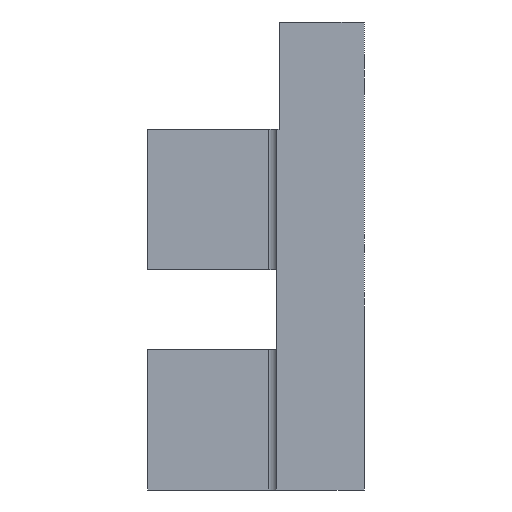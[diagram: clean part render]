
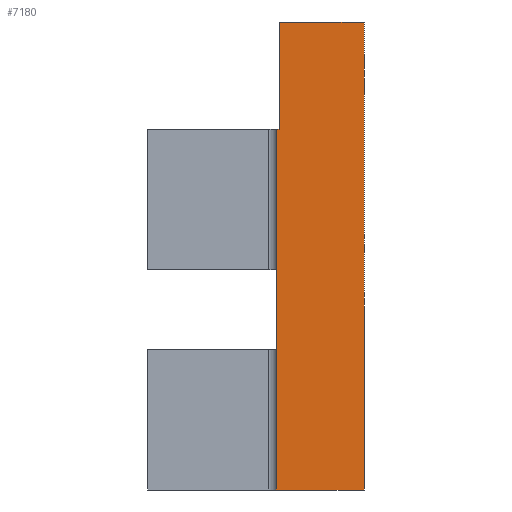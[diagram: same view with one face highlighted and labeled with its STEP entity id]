
A CAD part, left-side view. The second image highlights one B-rep face of the part: STEP entity #7180.
In plain terms, the highlighted planar face has unit normal (-1, 0, 0).
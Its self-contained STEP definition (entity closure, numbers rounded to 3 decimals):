
#619 = CARTESIAN_POINT ( 'NONE',  ( -100., 7.5, 40. ) ) ;
#1551 = EDGE_CURVE ( 'NONE', #8091, #20554, #17420, .T. ) ;
#3035 = CARTESIAN_POINT ( 'NONE',  ( -100., -7.5, 40. ) ) ;
#3167 = LINE ( 'NONE', #11513, #19996 ) ;
#3741 = VERTEX_POINT ( 'NONE', #20919 ) ;
#4354 = LINE ( 'NONE', #12696, #17843 ) ;
#5245 = ORIENTED_EDGE ( 'NONE', *, *, #9048, .T. ) ;
#5387 = ORIENTED_EDGE ( 'NONE', *, *, #11858, .F. ) ;
#5457 = ORIENTED_EDGE ( 'NONE', *, *, #14149, .F. ) ;
#5765 = CARTESIAN_POINT ( 'NONE',  ( -100., 7., 21.652 ) ) ;
#6637 = PLANE ( 'NONE',  #22877 ) ;
#7058 = FACE_OUTER_BOUND ( 'NONE', #12041, .T. ) ;
#7180 = ADVANCED_FACE ( 'NONE', ( #7058 ), #6637, .F. ) ;
#7814 = ORIENTED_EDGE ( 'NONE', *, *, #13978, .T. ) ;
#8091 = VERTEX_POINT ( 'NONE', #26180 ) ;
#8103 = VERTEX_POINT ( 'NONE', #19605 ) ;
#8254 = LINE ( 'NONE', #22642, #15645 ) ;
#8980 = DIRECTION ( 'NONE',  ( 1., 0., 0. ) ) ;
#9048 = EDGE_CURVE ( 'NONE', #8103, #20554, #8254, .T. ) ;
#10814 = DIRECTION ( 'NONE',  ( 0., 0., 1. ) ) ;
#10829 = CARTESIAN_POINT ( 'NONE',  ( -100., -7.5, -40. ) ) ;
#11513 = CARTESIAN_POINT ( 'NONE',  ( -100., 7.5, 40. ) ) ;
#11858 = EDGE_CURVE ( 'NONE', #3741, #24740, #14909, .T. ) ;
#12041 = EDGE_LOOP ( 'NONE', ( #20568, #5457, #5387, #7814, #5245, #22037 ) ) ;
#12696 = CARTESIAN_POINT ( 'NONE',  ( -100., 7.5, 40. ) ) ;
#12847 = DIRECTION ( 'NONE',  ( 0., -1., 0. ) ) ;
#12862 = LINE ( 'NONE', #21229, #22635 ) ;
#13978 = EDGE_CURVE ( 'NONE', #3741, #8103, #3167, .T. ) ;
#14149 = EDGE_CURVE ( 'NONE', #24740, #15367, #12862, .T. ) ;
#14624 = EDGE_CURVE ( 'NONE', #15367, #8091, #4354, .T. ) ;
#14909 = LINE ( 'NONE', #23267, #22224 ) ;
#15367 = VERTEX_POINT ( 'NONE', #17061 ) ;
#15645 = VECTOR ( 'NONE', #16325, 1000. ) ;
#15774 = DIRECTION ( 'NONE',  ( 0., 0., -1. ) ) ;
#16325 = DIRECTION ( 'NONE',  ( 0., -1., 0. ) ) ;
#17061 = CARTESIAN_POINT ( 'NONE',  ( -100., 7., 40. ) ) ;
#17420 = LINE ( 'NONE', #3035, #23022 ) ;
#17843 = VECTOR ( 'NONE', #21058, 1000. ) ;
#19605 = CARTESIAN_POINT ( 'NONE',  ( -100., 7.5, -40. ) ) ;
#19996 = VECTOR ( 'NONE', #15774, 1000. ) ;
#20554 = VERTEX_POINT ( 'NONE', #10829 ) ;
#20568 = ORIENTED_EDGE ( 'NONE', *, *, #14624, .F. ) ;
#20919 = CARTESIAN_POINT ( 'NONE',  ( -100., 7.5, 21.652 ) ) ;
#21058 = DIRECTION ( 'NONE',  ( 0., -1., 0. ) ) ;
#21229 = CARTESIAN_POINT ( 'NONE',  ( -100., 7., 41.925 ) ) ;
#21459 = DIRECTION ( 'NONE',  ( 0., 0., -1. ) ) ;
#22037 = ORIENTED_EDGE ( 'NONE', *, *, #1551, .F. ) ;
#22224 = VECTOR ( 'NONE', #12847, 1000. ) ;
#22635 = VECTOR ( 'NONE', #10814, 1000. ) ;
#22642 = CARTESIAN_POINT ( 'NONE',  ( -100., 7.5, -40. ) ) ;
#22877 = AXIS2_PLACEMENT_3D ( 'NONE', #619, #8980, #21459 ) ;
#23022 = VECTOR ( 'NONE', #26185, 1000. ) ;
#23267 = CARTESIAN_POINT ( 'NONE',  ( -100., 33.675, 21.652 ) ) ;
#24740 = VERTEX_POINT ( 'NONE', #5765 ) ;
#26180 = CARTESIAN_POINT ( 'NONE',  ( -100., -7.5, 40. ) ) ;
#26185 = DIRECTION ( 'NONE',  ( 0., 0., -1. ) ) ;
